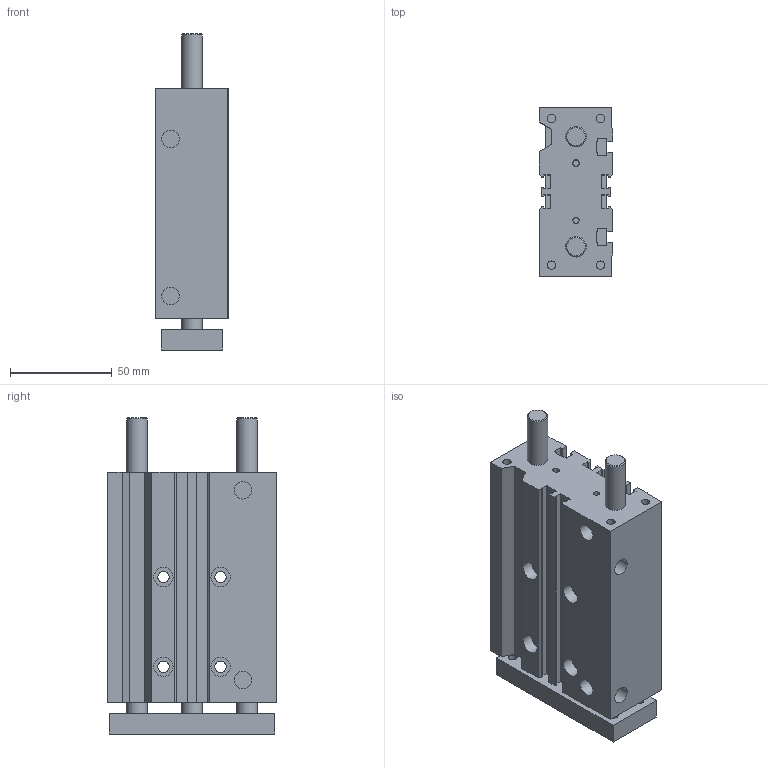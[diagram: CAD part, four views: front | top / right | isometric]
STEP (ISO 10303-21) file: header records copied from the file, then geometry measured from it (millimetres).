
FILE_DESCRIPTION((''),'2;1');
FILE_NAME('K:\A-Mauro\_Inventor\LIBRERIE\6100\6100_#_#_#\6100200075C.stp','2007-02-26T08:52:22',('valotma1'),(''),'Autodesk Inventor 11','Autodesk Inventor 11','');
FILE_SCHEMA(('AUTOMOTIVE_DESIGN { 1 0 10303 214 1 1 1 1 }'));
Length unit declared in the file: millimetre
Products named in the file (3): 6100200075C; CORPO Ø20 C75 C; PIASTRA Ø20 C75 C
Assembly tree (2 placements, depth 2):
  6100200075C
    CORPO Ø20 C75 C
    PIASTRA Ø20 C75 C
Bounding box: 36 x 83 x 155 mm (x, y, z)
Volume: 325899.1 mm3; surface area: 74552.8 mm2
Topology: 2 solids, 2 shells, 158 faces, 393 edges, 261 vertices
Faces by surface type: plane 95, bspline 52, cylinder 9, cone 2
Full cylindrical faces by diameter (mm): 10 x3
Entity records: 4932 total; most frequent: CARTESIAN_POINT 1329, ORIENTED_EDGE 702, DIRECTION 654, EDGE_CURVE 351, VECTOR 270, LINE 270, VERTEX_POINT 253, EDGE_LOOP 234
